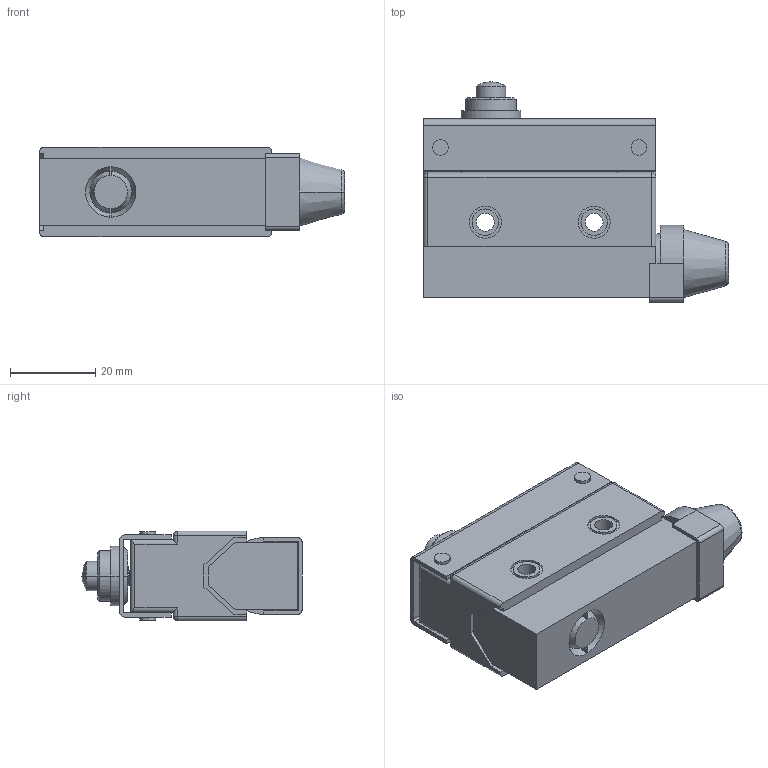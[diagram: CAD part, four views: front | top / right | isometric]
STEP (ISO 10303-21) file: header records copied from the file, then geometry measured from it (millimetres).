
FILE_DESCRIPTION (( 'STEP AP203' ), '1' );
FILE_NAME ('FM7100.STEP', '2018-03-23T13:19:15', ( '' ), ( '' ), 'SwSTEP 2.0', 'SolidWorks 2012', '' );
FILE_SCHEMA (( 'CONFIG_CONTROL_DESIGN' ));
Length unit declared in the file: millimetre
Products named in the file (1): FM7100
Bounding box: 71.5 x 51.6 x 21 mm (x, y, z)
Volume: 43337.2 mm3; surface area: 15476.5 mm2
Topology: 1 solids, 2 shells, 256 faces, 620 edges, 385 vertices
Faces by surface type: plane 104, cylinder 103, torus 22, cone 14, sphere 10, bspline 3
Entity records: 10207 total; most frequent: CARTESIAN_POINT 4040, DIRECTION 1336, ORIENTED_EDGE 1216, EDGE_CURVE 608, AXIS2_PLACEMENT_3D 510, VERTEX_POINT 385, LINE 316, VECTOR 316
